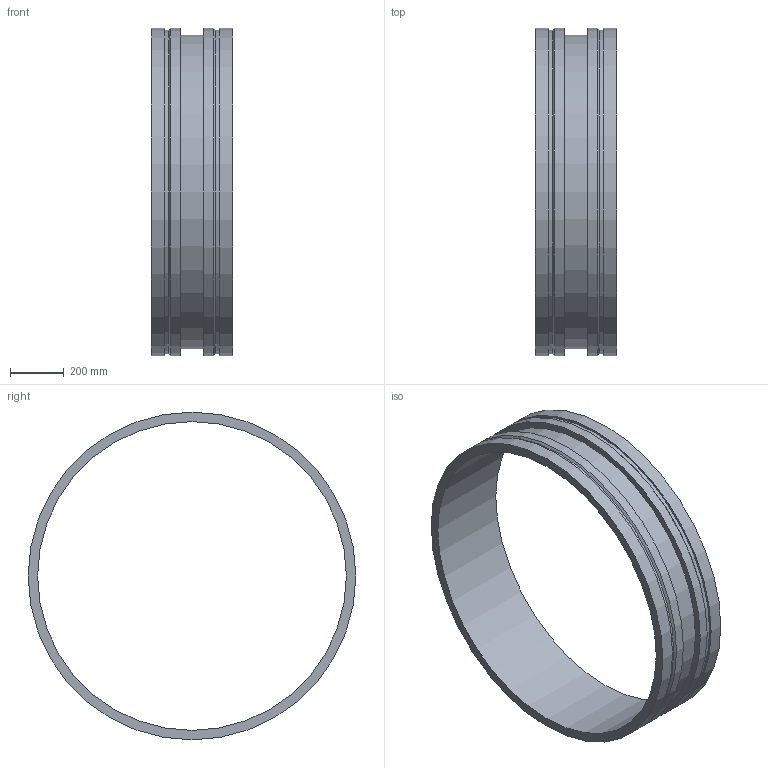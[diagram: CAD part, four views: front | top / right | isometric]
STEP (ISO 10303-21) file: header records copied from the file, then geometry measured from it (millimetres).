
FILE_DESCRIPTION(/* description */ ('VIC ADAPTER NIPPLE No W43 VR','CAx-IF Rec.Pracs.---Representation and Presentation of Product Manufacturing Information (PMI)---4.0---2014-10-13'),/* implementation_level */ '2;1');
FILE_NAME(/* name */ 'C:\Users\kkamble\AppData\Roaming\Autodesk\ApplicationPlugins\Back Up\Victaulic_Vic-Ring_Adapter Nipple_No W43 VR (AGR)\Victaulic_Vic-Ring_Adapter Nipple_No W43 VR (AGR)_46 (1150).stp',/* time_stamp */ '2020-09-10T11:31:52+05:00',/* author */ ('cps_temp'),/* organization */ ('Victaulic'),/* preprocessor_version */ 'ST-DEVELOPER v17.2',/* originating_system */ 'Autodesk Inventor 2019',/* authorisation */ '');
FILE_SCHEMA (('TECHNICAL_DATA_PACKAGING','AP242_MANAGED_MODEL_BASED_3D_ENGINEERING_MIM_LF { 1 0 10303 442 1 1 4 }'));
Length unit declared in the file: inch
Products named in the file (1): W43 VR-46.0
Bounding box: 304.8 x 1219.2 x 1219.2 mm (x, y, z)
Volume: 30072703.5 mm3; surface area: 2791056.7 mm2
Topology: 1 solids, 1 shells, 16 faces, 42 edges, 32 vertices
Faces by surface type: cylinder 8, plane 6, cone 2
Full cylindrical faces by diameter (mm): 1149.35 x1, 1168.4 x1, 1203.325 x2, 1219.2 x4
Entity records: 686 total; most frequent: DIRECTION 134, CARTESIAN_POINT 108, ORIENTED_EDGE 84, AXIS2_PLACEMENT_3D 62, EDGE_CURVE 42, CIRCLE 32, VERTEX_POINT 32, EDGE_LOOP 22
